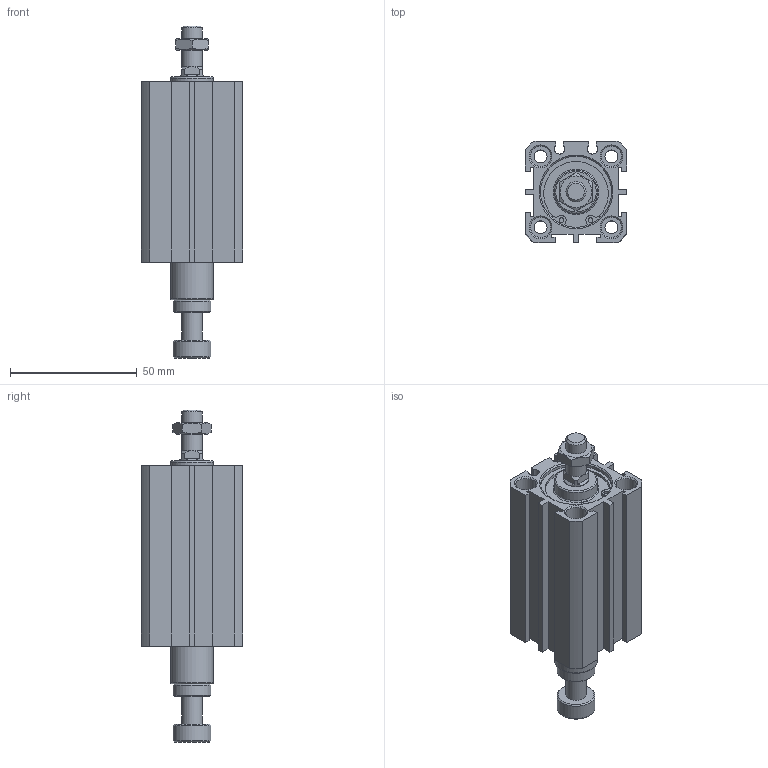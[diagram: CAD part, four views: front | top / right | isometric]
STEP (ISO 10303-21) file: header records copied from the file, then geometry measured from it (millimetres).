
FILE_DESCRIPTION((''),'2;1');
FILE_NAME('I:\3D電子目錄\氣缸\JDAR\JDAR-BS\JDAR25-BS\JDAR25x40-BS.stp','2007-05-05T11:19:50',('662F206'),(''),'Autodesk Inventor 11','Autodesk Inventor 11','');
FILE_SCHEMA(('AUTOMOTIVE_DESIGN { 1 0 10303 214 1 1 1 1 }'));
Length unit declared in the file: millimetre
Products named in the file (3): JDAR25-BS; R 形環 28
Assembly tree (3 placements, depth 2):
  JDAR25-BS
    JDAR25-BS
    R 形環 28  x2
Bounding box: 40 x 40 x 131.1 mm (x, y, z)
Volume: 97422.5 mm3; surface area: 29110.7 mm2
Topology: 3 solids, 3 shells, 175 faces, 406 edges, 263 vertices
Faces by surface type: plane 94, cylinder 50, cone 23, bspline 6, torus 2
Full cylindrical faces by diameter (mm): 1.5 x2, 1.9 x4, 5.1 x4, 8 x11, 10 x1, 15 x2, 17 x2, 28 x4, 29.4 x2
Entity records: 4479 total; most frequent: CARTESIAN_POINT 889, DIRECTION 742, ORIENTED_EDGE 630, EDGE_CURVE 315, AXIS2_PLACEMENT_3D 284, EDGE_LOOP 256, VERTEX_POINT 237, VECTOR 174
